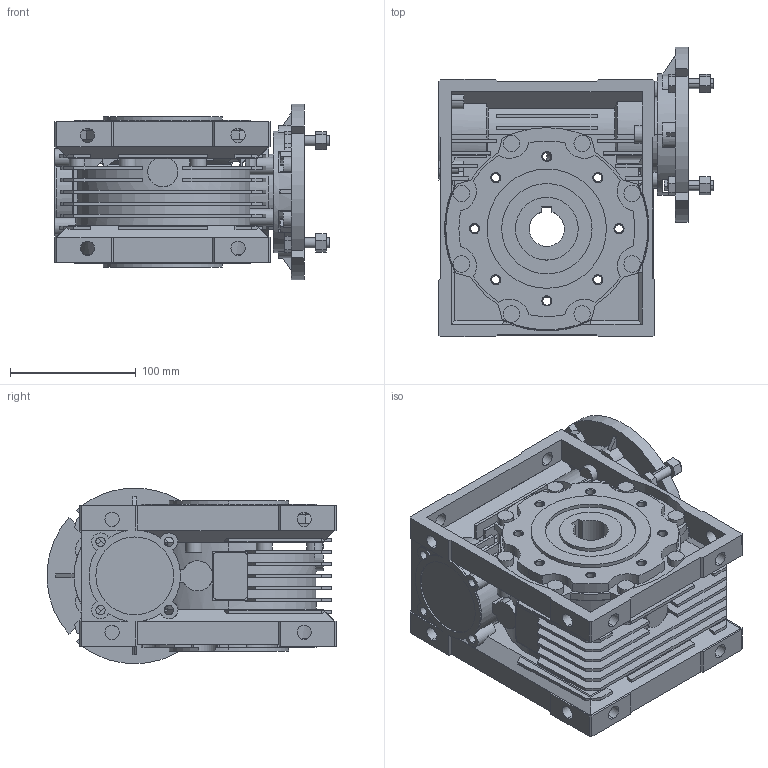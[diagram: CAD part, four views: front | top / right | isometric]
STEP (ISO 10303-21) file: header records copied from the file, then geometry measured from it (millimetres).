
FILE_DESCRIPTION (( 'STEP AP214' ), '1' );
FILE_NAME ('CMRV075_B09.STEP', '2019-08-01T13:36:29', ( '' ), ( '' ), 'SwSTEP 2.0', 'SolidWorks 2012', '' );
FILE_SCHEMA (( 'AUTOMOTIVE_DESIGN' ));
Length unit declared in the file: millimetre
Products named in the file (1): CMRV075_B09
Bounding box: 218.5 x 230.77 x 139.77 mm (x, y, z)
Surface area: 416023.9 mm2 (no closed solid volume)
Topology: 0 solids, 6 shells, 961 faces, 3126 edges, 2132 vertices
Faces by surface type: plane 565, cylinder 343, cone 53
Entity records: 45408 total; most frequent: CARTESIAN_POINT 6998, DIRECTION 5880, ORIENTED_EDGE 5574, EDGE_CURVE 3126, VERTEX_POINT 2132, LINE 2012, VECTOR 2012, AXIS2_PLACEMENT_3D 1934
